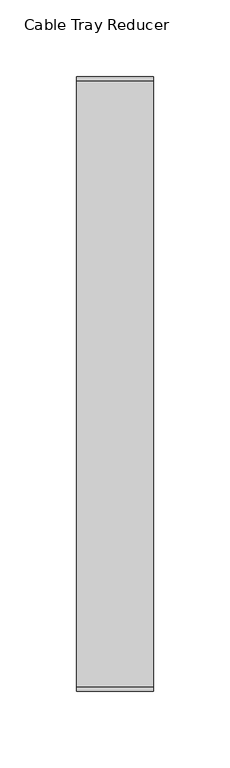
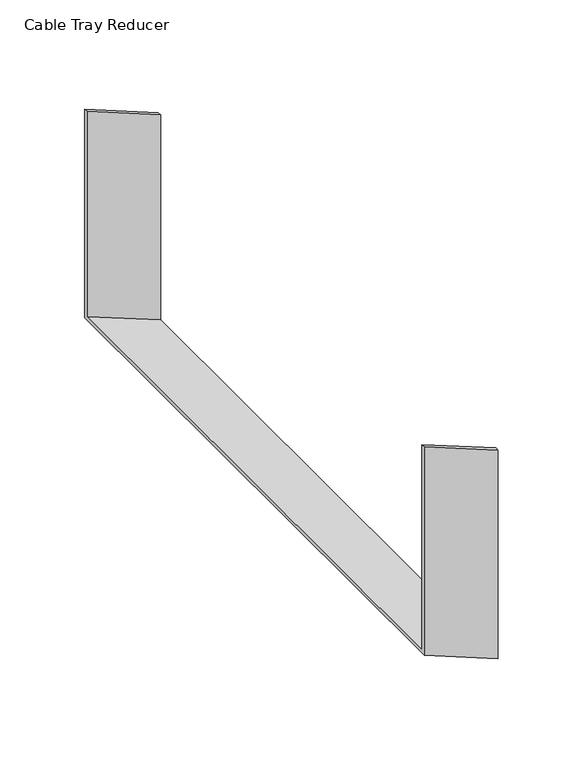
"""IFC4 building model written with IfcOpenShell, lengths in millimetres: cable carrier fitting geometry, Cable Tray Reducer : ELEC_ELV_TKG_N2402."""

from ifc_helpers import new_model, si_unit, origin, place, context, project, spatial, faceted_brep, source, transform, mapped, element, save


def cable_tray_reducer_a81609a3(model_context):
    return source(origin(), model_context, "Body", "Brep", [
        faceted_brep([(50.0, -200.0009288, -94.838312), (50.0, 199.9990712, -94.838312), (50.0, 199.9990712, 55.161688), (50.0, 197.4590712, 55.161688), (50.0, 197.4590712, -92.298312), (50.0, -197.4609288, -92.298312), (50.0, -197.4609288, 55.161688), (50.0, -200.0009288, 55.161688), (0.0, -200.0, -75.0), (0.0, -200.0, 75.0), (0.0, -197.46, 75.0), (0.0, -197.46, -72.46), (0.0, 197.46, -72.46), (0.0, 197.46, 75.0), (0.0, 200.0, 75.0), (0.0, 200.0, -75.0)], [[[0, 1, 2, 3, 4, 5, 6, 7]], [[8, 9, 10, 11, 12, 13, 14, 15]], [[8, 15, 1, 0]], [[15, 14, 2, 1]], [[14, 13, 3, 2]], [[13, 12, 4, 3]], [[12, 11, 5, 4]], [[11, 10, 6, 5]], [[10, 9, 7, 6]], [[9, 8, 0, 7]]]),
    ])


if __name__ == "__main__":
    model = new_model("IFC4")
    model_context = context("Model", 3, world=origin())
    ifc_project = project(units=[si_unit("LENGTHUNIT", "METRE", prefix="MILLI")], contexts=[model_context])
    site = spatial("IfcSite", under=ifc_project)
    building = spatial("IfcBuilding", under=site)
    placement = place(None, origin())
    cable_tray_reducer_shape = cable_tray_reducer_a81609a3(model_context)
    element("IfcCableCarrierFitting", 1, ObjectType="Cable Tray Reducer : ELEC_ELV_TKG_N2402", at=placement, inside=building, context=model_context, shape_type="MappedRepresentation", body=[
        mapped(cable_tray_reducer_shape, transform((0.0, 0.0, 0.0), x_axis=(1.0, 0.0, 0.0), y_axis=(0.0, 1.0, 0.0), z_axis=(0.0, 0.0, 1.0))),
    ])
    save(model, "model.ifc")
